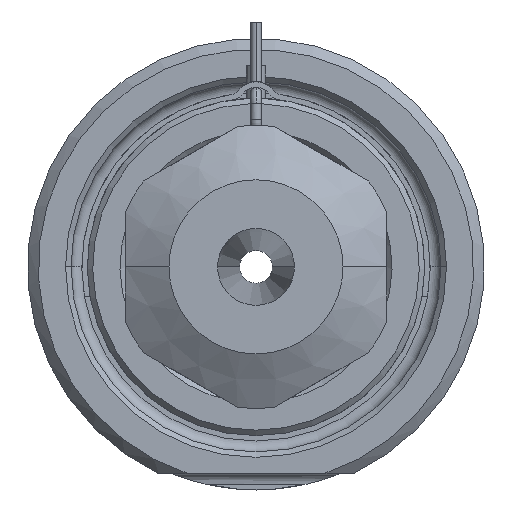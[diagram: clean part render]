
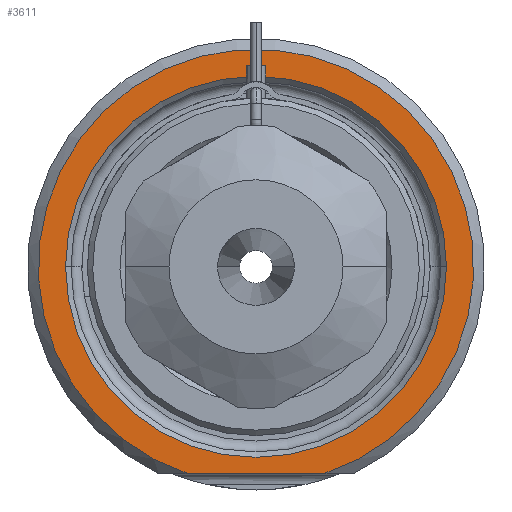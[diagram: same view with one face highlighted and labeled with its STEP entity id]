
A CAD part, front view. The second image highlights one B-rep face of the part: STEP entity #3611.
In plain terms, the highlighted planar face has unit normal (0, -1, 0).
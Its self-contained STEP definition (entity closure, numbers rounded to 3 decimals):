
#688=DIRECTION('',(1.,0.,0.));
#689=VECTOR('',#688,12.49);
#690=CARTESIAN_POINT('',(-6.245,0.,-19.));
#691=LINE('',#690,#689);
#692=CARTESIAN_POINT('',(0.,0.,0.));
#693=DIRECTION('',(0.,1.,0.));
#694=DIRECTION('',(-1.,0.,0.));
#695=AXIS2_PLACEMENT_3D('',#692,#693,#694);
#697=CARTESIAN_POINT('',(0.,0.,0.));
#698=DIRECTION('',(0.,1.,0.));
#699=DIRECTION('',(1.,0.,0.));
#700=AXIS2_PLACEMENT_3D('',#697,#698,#699);
#806=CARTESIAN_POINT('',(0.,0.,0.));
#807=DIRECTION('',(0.,-1.,0.));
#808=DIRECTION('',(0.312,0.,-0.95));
#809=AXIS2_PLACEMENT_3D('',#806,#807,#808);
#2430=CARTESIAN_POINT('',(-17.5,0.,0.));
#2431=CARTESIAN_POINT('',(17.5,0.,0.));
#2432=VERTEX_POINT('',#2430);
#2433=VERTEX_POINT('',#2431);
#2474=CARTESIAN_POINT('',(-6.245,0.,-19.));
#2475=CARTESIAN_POINT('',(6.245,0.,-19.));
#2476=VERTEX_POINT('',#2474);
#2477=VERTEX_POINT('',#2475);
#3595=CARTESIAN_POINT('',(0.,0.,0.));
#3596=DIRECTION('',(0.,-1.,0.));
#3597=DIRECTION('',(1.,0.,0.));
#3598=AXIS2_PLACEMENT_3D('',#3595,#3596,#3597);
#3599=PLANE('',#3598);
#3601=ORIENTED_EDGE('',*,*,#3600,.F.);
#3603=ORIENTED_EDGE('',*,*,#3602,.F.);
#3604=EDGE_LOOP('',(#3601,#3603));
#3605=FACE_OUTER_BOUND('',#3604,.F.);
#3606=ORIENTED_EDGE('',*,*,#3585,.F.);
#3608=ORIENTED_EDGE('',*,*,#3607,.F.);
#3609=EDGE_LOOP('',(#3606,#3608));
#3610=FACE_BOUND('',#3609,.F.);
#3611=ADVANCED_FACE('',(#3605,#3610),#3599,.T.);
#696=CIRCLE('',#695,17.5);
#701=CIRCLE('',#700,17.5);
#810=CIRCLE('',#809,20.);
#3585=EDGE_CURVE('',#2432,#2433,#696,.T.);
#3600=EDGE_CURVE('',#2476,#2477,#691,.T.);
#3602=EDGE_CURVE('',#2477,#2476,#810,.T.);
#3607=EDGE_CURVE('',#2433,#2432,#701,.T.);
